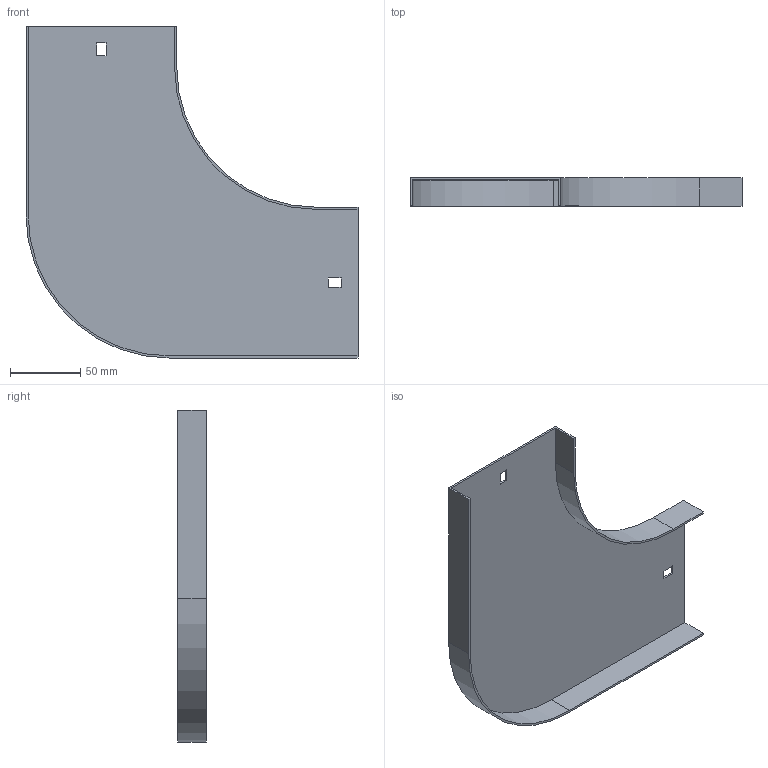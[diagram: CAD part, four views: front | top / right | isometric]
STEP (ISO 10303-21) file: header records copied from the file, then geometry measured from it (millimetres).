
FILE_DESCRIPTION (( 'STEP AP214' ), '1' );
FILE_NAME ('10G1P100.step', '2025-02-21T12:46:22', ( '' ), ( '' ), 'SwSTEP 2.0', 'SolidWorks 2023', '' );
FILE_SCHEMA (( 'AUTOMOTIVE_DESIGN' ));
Length unit declared in the file: millimetre
Products named in the file (1): 10G1P100
Bounding box: 235.5 x 20 x 235.5 mm (x, y, z)
Volume: 75873.3 mm3; surface area: 102652.6 mm2
Topology: 1 solids, 1 shells, 26 faces, 72 edges, 48 vertices
Faces by surface type: plane 22, cylinder 4
Entity records: 855 total; most frequent: CARTESIAN_POINT 147, ORIENTED_EDGE 144, DIRECTION 134, EDGE_CURVE 72, LINE 64, VECTOR 64, VERTEX_POINT 48, AXIS2_PLACEMENT_3D 35
